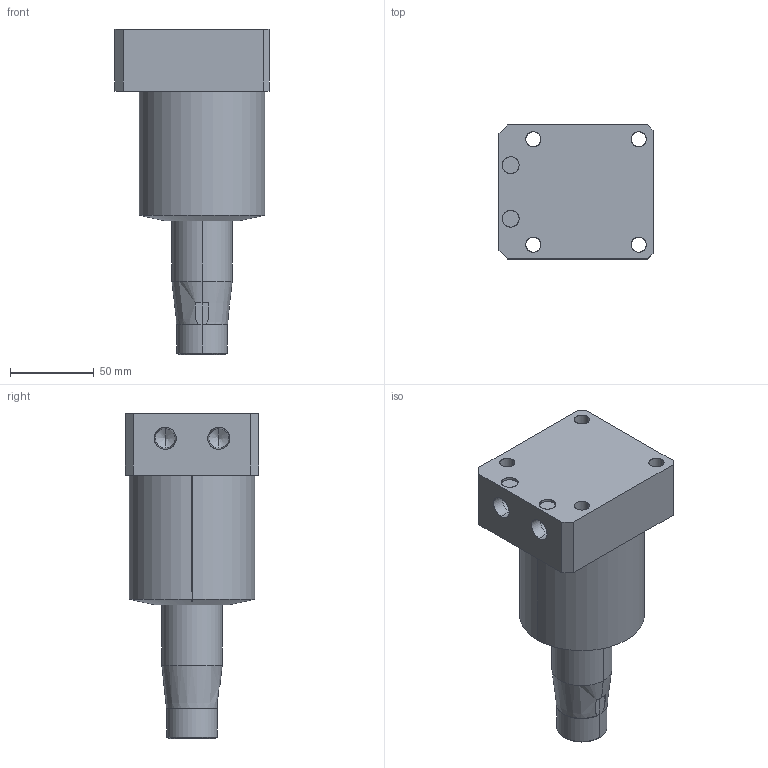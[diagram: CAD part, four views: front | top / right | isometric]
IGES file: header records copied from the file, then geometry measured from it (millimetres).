
Start section: SolidWorks IGES file using analytic representation for surfaces
Global section: file name: E:\ALL SSVT IGS MODEL\ALL-SWING-IGS\SWING-75\SB03-751- 752-RH-LH-BM-TAPER\SB03-751-RH-TAPER-BM.IGS; native system: SolidWorks 2019; preprocessor: SolidWorks 2019; author: SSVT; date: 210823.122124; units: millimetre
Bounding box: 92 x 80 x 194.5 mm (x, y, z)
Surface area: 71928.7 mm2 (no closed solid volume)
Topology: 0 solids, 0 shells, 60 faces, 1162 edges, 1158 vertices
Faces by surface type: revolution 38, bspline 22
